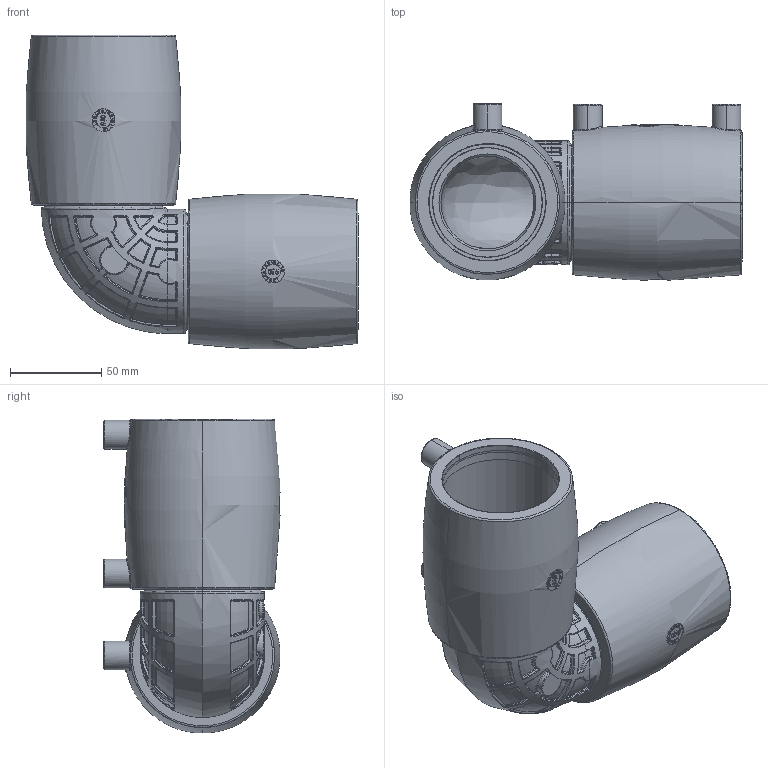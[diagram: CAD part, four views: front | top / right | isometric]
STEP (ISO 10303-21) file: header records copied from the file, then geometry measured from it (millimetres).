
FILE_DESCRIPTION (( 'STEP AP214' ), '1' );
FILE_NAME ('KP_23-63E.STEP', '2019-03-22T13:24:50', ( '' ), ( '' ), 'SwSTEP 2.0', 'SolidWorks 2018', '' );
FILE_SCHEMA (( 'AUTOMOTIVE_DESIGN' ));
Length unit declared in the file: millimetre
Products named in the file (1): KP_23-63E
Bounding box: 181.74 x 96.34 x 171.74 mm (x, y, z)
Volume: 617955 mm3; surface area: 162313.2 mm2
Topology: 1 solids, 1 shells, 3682 faces, 10004 edges, 6447 vertices
Faces by surface type: plane 2558, bspline 703, cylinder 332, cone 56, torus 33
Entity records: 199955 total; most frequent: CARTESIAN_POINT 73299, ORIENTED_EDGE 19934, DIRECTION 14720, EDGE_CURVE 9967, LINE 7122, VECTOR 7122, VERTEX_POINT 6447, EDGE_LOOP 3844
